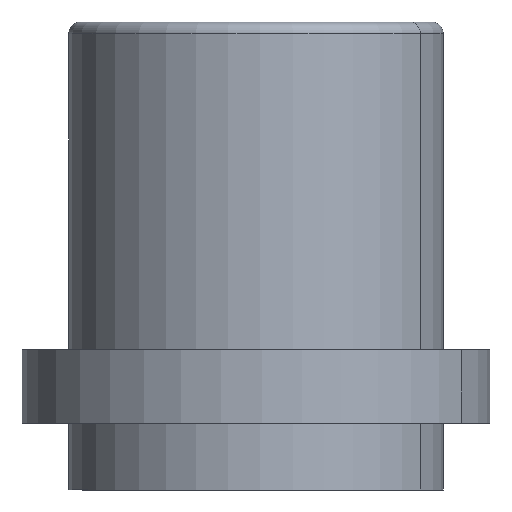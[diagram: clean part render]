
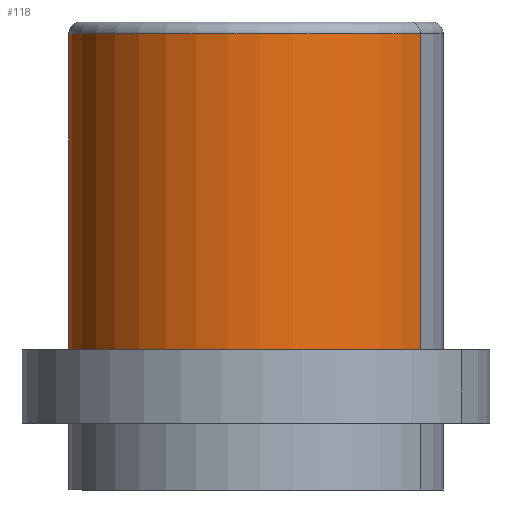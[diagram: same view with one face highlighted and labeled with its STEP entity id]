
A CAD part, left-side view. The second image highlights one B-rep face of the part: STEP entity #118.
In plain terms, the highlighted cylindrical face has radius 16 mm (diameter 32 mm), a partial arc.
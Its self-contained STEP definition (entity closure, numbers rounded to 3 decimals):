
#47=AXIS2_PLACEMENT_3D('Circle Axis2P3D',#45,#46,$) ;
#91=AXIS2_PLACEMENT_3D('Cylinder Axis2P3D',#88,#89,#90) ;
#102=AXIS2_PLACEMENT_3D('Circle Axis2P3D',#100,#101,$) ;
#42=CARTESIAN_POINT('Vertex',(7.671,14.041,27.)) ;
#45=CARTESIAN_POINT('Axis2P3D Location',(0.,0.,27.)) ;
#49=CARTESIAN_POINT('Vertex',(-7.671,-14.041,27.)) ;
#88=CARTESIAN_POINT('Axis2P3D Location',(0.,0.,8.)) ;
#93=CARTESIAN_POINT('Line Origine',(7.671,14.041,7.5)) ;
#97=CARTESIAN_POINT('Vertex',(7.671,14.041,0.)) ;
#100=CARTESIAN_POINT('Axis2P3D Location',(0.,0.,0.)) ;
#104=CARTESIAN_POINT('Vertex',(-7.671,-14.041,0.)) ;
#107=CARTESIAN_POINT('Line Origine',(-7.671,-14.041,7.5)) ;
#46=DIRECTION('Axis2P3D Direction',(0.,0.,-1.)) ;
#89=DIRECTION('Axis2P3D Direction',(0.,0.,-1.)) ;
#90=DIRECTION('Axis2P3D XDirection',(-0.479,-0.878,0.)) ;
#94=DIRECTION('Vector Direction',(0.,0.,-1.)) ;
#101=DIRECTION('Axis2P3D Direction',(0.,0.,-1.)) ;
#108=DIRECTION('Vector Direction',(0.,0.,-1.)) ;
#95=VECTOR('Line Direction',#94,1.) ;
#109=VECTOR('Line Direction',#108,1.) ;
#113=ORIENTED_EDGE('',*,*,#99,.T.) ;
#114=ORIENTED_EDGE('',*,*,#106,.F.) ;
#115=ORIENTED_EDGE('',*,*,#111,.F.) ;
#116=ORIENTED_EDGE('',*,*,#51,.T.) ;
#118=ADVANCED_FACE('PartBody',(#117),#92,.T.) ;
#48=CIRCLE('generated circle',#47,16.) ;
#103=CIRCLE('generated circle',#102,16.) ;
#92=CYLINDRICAL_SURFACE('generated cylinder',#91,16.) ;
#51=EDGE_CURVE('',#50,#43,#48,.T.) ;
#99=EDGE_CURVE('',#43,#98,#96,.T.) ;
#106=EDGE_CURVE('',#105,#98,#103,.T.) ;
#111=EDGE_CURVE('',#50,#105,#110,.T.) ;
#112=EDGE_LOOP('',(#113,#114,#115,#116)) ;
#117=FACE_OUTER_BOUND('',#112,.T.) ;
#96=LINE('Line',#93,#95) ;
#110=LINE('Line',#107,#109) ;
#43=VERTEX_POINT('',#42) ;
#50=VERTEX_POINT('',#49) ;
#98=VERTEX_POINT('',#97) ;
#105=VERTEX_POINT('',#104) ;
